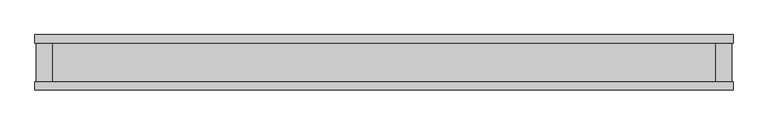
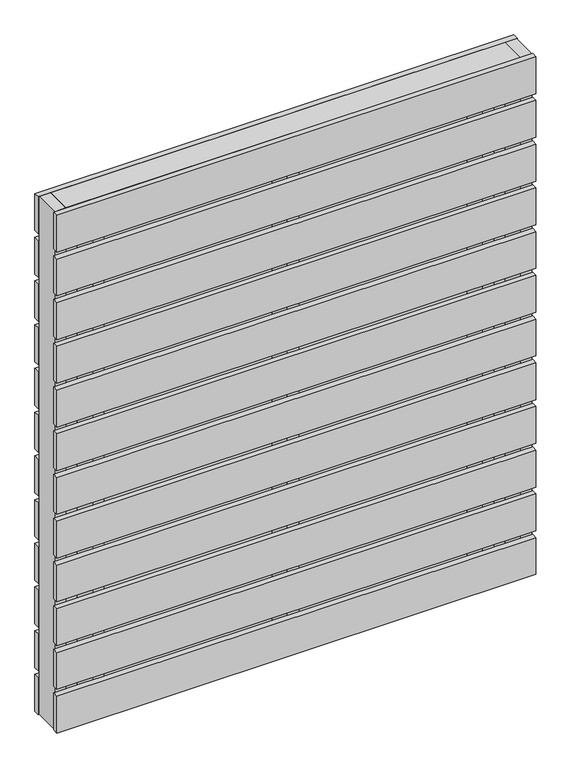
"""IFC4 building model written with IfcOpenShell, lengths in millimetres: furniture geometry, GMi_Companies-Pallet : PLTW-7263-KP-MC."""

from ifc_helpers import new_model, si_unit, frame, origin, origin_with_axes, place, context, project, spatial, polyline, outline, extrude, source, transform, mapped, element, save


def furniture_04ca8156(model_context):
    return source(origin(), model_context, "Body", "SweptSolid", [
        extrude(outline(polyline([(1600.2, -107.9499985), (1600.2, -126.9999985), (0.0, -126.9999985), (0.0, -107.9499985), (1600.2, -107.9499985)])), frame((0.0, 0.0, 154.4204545), z_axis=(0.0, 0.0, 1.0), x_axis=(1.0, 0.0, 0.0)), (0.0, 0.0, 1.0), 130.175),
        extrude(outline(polyline([(1600.2, 0.0), (1600.2, -19.05), (0.0, -19.05), (0.0, 0.0), (1600.2, 0.0)])), frame((0.0, 0.0, 154.4204545), z_axis=(0.0, 0.0, 1.0), x_axis=(1.0, 0.0, 0.0)), (0.0, 0.0, 1.0), 130.175),
        extrude(outline(polyline([(1600.2, -107.9499985), (1600.2, -126.9999985), (0.0, -126.9999985), (0.0, -107.9499985), (1600.2, -107.9499985)])), frame((0.0, 0.0, 308.8409091), z_axis=(0.0, 0.0, 1.0), x_axis=(1.0, 0.0, 0.0)), (0.0, 0.0, 1.0), 130.175),
        extrude(outline(polyline([(1600.2, -107.9499985), (1600.2, -126.9999985), (0.0, -126.9999985), (0.0, -107.9499985), (1600.2, -107.9499985)])), frame((0.0, 0.0, 463.2613636), z_axis=(0.0, 0.0, 1.0), x_axis=(1.0, 0.0, 0.0)), (0.0, 0.0, 1.0), 130.175),
        extrude(outline(polyline([(1600.2, -107.9499985), (1600.2, -126.9999985), (0.0, -126.9999985), (0.0, -107.9499985), (1600.2, -107.9499985)])), frame((0.0, 0.0, 617.6818182), z_axis=(0.0, 0.0, 1.0), x_axis=(1.0, 0.0, 0.0)), (0.0, 0.0, 1.0), 130.175),
        extrude(outline(polyline([(1600.2, -107.9499985), (1600.2, -126.9999985), (0.0, -126.9999985), (0.0, -107.9499985), (1600.2, -107.9499985)])), frame((0.0, 0.0, 772.1022727), z_axis=(0.0, 0.0, 1.0), x_axis=(1.0, 0.0, 0.0)), (0.0, 0.0, 1.0), 130.175),
        extrude(outline(polyline([(1600.2, -107.9499985), (1600.2, -126.9999985), (0.0, -126.9999985), (0.0, -107.9499985), (1600.2, -107.9499985)])), frame((0.0, 0.0, 926.5227273), z_axis=(0.0, 0.0, 1.0), x_axis=(1.0, 0.0, 0.0)), (0.0, 0.0, 1.0), 130.175),
        extrude(outline(polyline([(1600.2, -107.9499985), (1600.2, -126.9999985), (0.0, -126.9999985), (0.0, -107.9499985), (1600.2, -107.9499985)])), frame((0.0, 0.0, 1080.9431818), z_axis=(0.0, 0.0, 1.0), x_axis=(1.0, 0.0, 0.0)), (0.0, 0.0, 1.0), 130.175),
        extrude(outline(polyline([(1600.2, -107.9499985), (1600.2, -126.9999985), (0.0, -126.9999985), (0.0, -107.9499985), (1600.2, -107.9499985)])), frame((0.0, 0.0, 1235.3636364), z_axis=(0.0, 0.0, 1.0), x_axis=(1.0, 0.0, 0.0)), (0.0, 0.0, 1.0), 130.175),
        extrude(outline(polyline([(1600.2, -107.9499985), (1600.2, -126.9999985), (0.0, -126.9999985), (0.0, -107.9499985), (1600.2, -107.9499985)])), frame((0.0, 0.0, 1389.7840909), z_axis=(0.0, 0.0, 1.0), x_axis=(1.0, 0.0, 0.0)), (0.0, 0.0, 1.0), 130.175),
        extrude(outline(polyline([(1600.2, -107.9499985), (1600.2, -126.9999985), (0.0, -126.9999985), (0.0, -107.9499985), (1600.2, -107.9499985)])), frame((0.0, 0.0, 1544.2045455), z_axis=(0.0, 0.0, 1.0), x_axis=(1.0, 0.0, 0.0)), (0.0, 0.0, 1.0), 130.175),
        extrude(outline(polyline([(1600.2, 0.0), (1600.2, -19.05), (0.0, -19.05), (0.0, 0.0), (1600.2, 0.0)])), frame((0.0, 0.0, 308.8409091), z_axis=(0.0, 0.0, 1.0), x_axis=(1.0, 0.0, 0.0)), (0.0, 0.0, 1.0), 130.175),
        extrude(outline(polyline([(1600.2, 0.0), (1600.2, -19.05), (0.0, -19.05), (0.0, 0.0), (1600.2, 0.0)])), frame((0.0, 0.0, 463.2613636), z_axis=(0.0, 0.0, 1.0), x_axis=(1.0, 0.0, 0.0)), (0.0, 0.0, 1.0), 130.175),
        extrude(outline(polyline([(1600.2, 0.0), (1600.2, -19.05), (0.0, -19.05), (0.0, 0.0), (1600.2, 0.0)])), frame((0.0, 0.0, 617.6818182), z_axis=(0.0, 0.0, 1.0), x_axis=(1.0, 0.0, 0.0)), (0.0, 0.0, 1.0), 130.175),
        extrude(outline(polyline([(1600.2, 0.0), (1600.2, -19.05), (0.0, -19.05), (0.0, 0.0), (1600.2, 0.0)])), frame((0.0, 0.0, 772.1022727), z_axis=(0.0, 0.0, 1.0), x_axis=(1.0, 0.0, 0.0)), (0.0, 0.0, 1.0), 130.175),
        extrude(outline(polyline([(1600.2, 0.0), (1600.2, -19.05), (0.0, -19.05), (0.0, 0.0), (1600.2, 0.0)])), frame((0.0, 0.0, 926.5227273), z_axis=(0.0, 0.0, 1.0), x_axis=(1.0, 0.0, 0.0)), (0.0, 0.0, 1.0), 130.175),
        extrude(outline(polyline([(1600.2, 0.0), (1600.2, -19.05), (0.0, -19.05), (0.0, 0.0), (1600.2, 0.0)])), frame((0.0, 0.0, 1080.9431818), z_axis=(0.0, 0.0, 1.0), x_axis=(1.0, 0.0, 0.0)), (0.0, 0.0, 1.0), 130.175),
        extrude(outline(polyline([(1600.2, 0.0), (1600.2, -19.05), (0.0, -19.05), (0.0, 0.0), (1600.2, 0.0)])), frame((0.0, 0.0, 1235.3636364), z_axis=(0.0, 0.0, 1.0), x_axis=(1.0, 0.0, 0.0)), (0.0, 0.0, 1.0), 130.175),
        extrude(outline(polyline([(1600.2, 0.0), (1600.2, -19.05), (0.0, -19.05), (0.0, 0.0), (1600.2, 0.0)])), frame((0.0, 0.0, 1389.7840909), z_axis=(0.0, 0.0, 1.0), x_axis=(1.0, 0.0, 0.0)), (0.0, 0.0, 1.0), 130.175),
        extrude(outline(polyline([(1600.2, 0.0), (1600.2, -19.05), (0.0, -19.05), (0.0, 0.0), (1600.2, 0.0)])), frame((0.0, 0.0, 1544.2045455), z_axis=(0.0, 0.0, 1.0), x_axis=(1.0, 0.0, 0.0)), (0.0, 0.0, 1.0), 130.175),
        extrude(outline(polyline([(1600.2, -107.9499985), (1600.2, -126.9999985), (0.0, -126.9999985), (0.0, -107.9499985), (1600.2, -107.9499985)])), origin_with_axes(), (0.0, 0.0, 1.0), 130.175),
        extrude(outline(polyline([(1600.2, 0.0), (1600.2, -19.05), (0.0, -19.05), (0.0, 0.0), (1600.2, 0.0)])), origin_with_axes(), (0.0, 0.0, 1.0), 130.175),
        extrude(outline(polyline([(1600.2, -107.9499985), (1600.2, -126.9999985), (0.0, -126.9999985), (0.0, -107.9499985), (1600.2, -107.9499985)])), frame((0.0, 0.0, 1698.625), z_axis=(0.0, 0.0, 1.0), x_axis=(1.0, 0.0, 0.0)), (0.0, 0.0, 1.0), 130.175),
        extrude(outline(polyline([(1600.2, 0.0), (1600.2, -19.05), (0.0, -19.05), (0.0, 0.0), (1600.2, 0.0)])), frame((0.0, 0.0, 1698.625), z_axis=(0.0, 0.0, 1.0), x_axis=(1.0, 0.0, 0.0)), (0.0, 0.0, 1.0), 130.175),
        extrude(outline(polyline([(819.149997, -107.95), (781.0500061, -107.95), (781.0500061, -19.05), (819.149997, -19.05), (819.149997, -107.95)])), frame((0.0, 0.0, 38.1), z_axis=(0.0, 0.0, 1.0), x_axis=(1.0, 0.0, 0.0)), (0.0, 0.0, 1.0), 1752.6),
        extrude(outline(polyline([(1470.025, -107.95), (1431.9250091, -107.95), (1431.9250091, -19.05), (1470.025, -19.05), (1470.025, -107.95)])), frame((0.0, 0.0, 38.1), z_axis=(0.0, 0.0, 1.0), x_axis=(1.0, 0.0, 0.0)), (0.0, 0.0, 1.0), 1752.6),
        extrude(outline(polyline([(168.2749939, -107.95), (130.175003, -107.95), (130.175003, -19.05), (168.2749939, -19.05), (168.2749939, -107.95)])), frame((0.0, 0.0, 38.1), z_axis=(0.0, 0.0, 1.0), x_axis=(1.0, 0.0, 0.0)), (0.0, 0.0, 1.0), 1752.6),
        extrude(outline(polyline([(1558.9249985, -19.0500015), (1558.9249985, -107.9499985), (41.2750015, -107.9499985), (41.2750015, -19.0500015), (1558.9249985, -19.0500015)])), frame((0.0, 0.0, 1790.7), z_axis=(0.0, 0.0, 1.0), x_axis=(1.0, 0.0, 0.0)), (0.0, 0.0, 1.0), 38.1),
        extrude(outline(polyline([(1558.9249985, -19.0500015), (1558.9249985, -107.9499985), (41.2750015, -107.9499985), (41.2750015, -19.0500015), (1558.9249985, -19.0500015)])), origin_with_axes(), (0.0, 0.0, 1.0), 38.1),
        extrude(outline(polyline([(41.2750015, -107.95), (3.1750001, -107.95), (3.1750001, -19.05), (41.2750015, -19.05), (41.2750015, -107.95)])), origin_with_axes(), (0.0, 0.0, 1.0), 1828.8),
        extrude(outline(polyline([(1597.0249999, -107.95), (1558.9249985, -107.95), (1558.9249985, -19.05), (1597.0249999, -19.05), (1597.0249999, -107.95)])), origin_with_axes(), (0.0, 0.0, 1.0), 1828.8),
    ])


if __name__ == "__main__":
    model = new_model("IFC4")
    model_context = context("Model", 3, world=origin())
    ifc_project = project(units=[si_unit("LENGTHUNIT", "METRE", prefix="MILLI")], contexts=[model_context])
    site = spatial("IfcSite", under=ifc_project)
    building = spatial("IfcBuilding", under=site)
    placement = place(None, origin())
    furniture_shape = furniture_04ca8156(model_context)
    element("IfcFurniture", 1, ObjectType="GMi_Companies-Pallet : PLTW-7263-KP-MC", at=placement, inside=building, context=model_context, shape_type="MappedRepresentation", body=[
        mapped(furniture_shape, transform((0.0, 0.0, 0.0), x_axis=(1.0, 0.0, 0.0), y_axis=(0.0, 1.0, 0.0), z_axis=(0.0, 0.0, 1.0))),
    ])
    save(model, "model.ifc")
